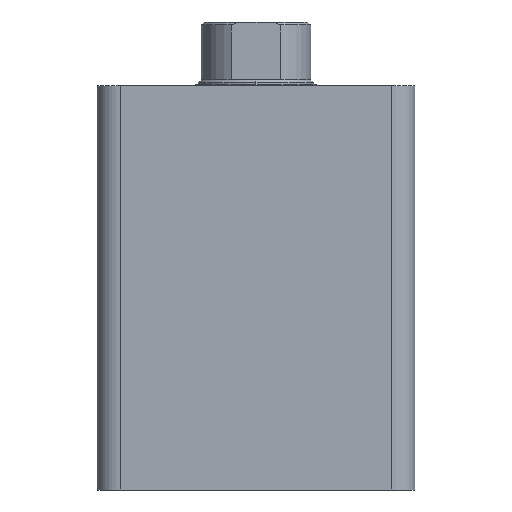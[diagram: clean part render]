
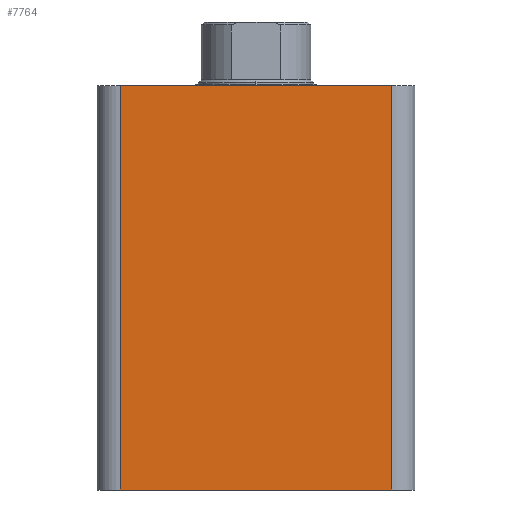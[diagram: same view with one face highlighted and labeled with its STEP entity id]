
A CAD part, front view. The second image highlights one B-rep face of the part: STEP entity #7764.
In plain terms, the highlighted planar face has unit normal (0, -1, 0).
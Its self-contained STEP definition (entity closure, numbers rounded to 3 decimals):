
#34 = EDGE_CURVE ( 'NONE', #10844, #4892, #4588, .T. ) ;
#507 = CARTESIAN_POINT ( 'NONE',  ( 4., 0., 0. ) ) ;
#1314 = VERTEX_POINT ( 'NONE', #9384 ) ;
#1643 = CARTESIAN_POINT ( 'NONE',  ( 4., 0., 70. ) ) ;
#1702 = ORIENTED_EDGE ( 'NONE', *, *, #11961, .T. ) ;
#2012 = DIRECTION ( 'NONE',  ( 0., 1., 0. ) ) ;
#2539 = LINE ( 'NONE', #11544, #6767 ) ;
#2569 = ORIENTED_EDGE ( 'NONE', *, *, #34, .T. ) ;
#2607 = CARTESIAN_POINT ( 'NONE',  ( 51., 0., 70. ) ) ;
#3071 = DIRECTION ( 'NONE',  ( 0., 0., 1. ) ) ;
#3123 = PLANE ( 'NONE',  #7475 ) ;
#3849 = ORIENTED_EDGE ( 'NONE', *, *, #13255, .F. ) ;
#3867 = VECTOR ( 'NONE', #9567, 1000. ) ;
#4588 = LINE ( 'NONE', #1643, #12620 ) ;
#4892 = VERTEX_POINT ( 'NONE', #507 ) ;
#5757 = DIRECTION ( 'NONE',  ( 0., 0., 1. ) ) ;
#6150 = LINE ( 'NONE', #11774, #3867 ) ;
#6378 = DIRECTION ( 'NONE',  ( 1., 0., 0. ) ) ;
#6767 = VECTOR ( 'NONE', #6378, 1000. ) ;
#7475 = AXIS2_PLACEMENT_3D ( 'NONE', #12455, #2012, #3071 ) ;
#7764 = ADVANCED_FACE ( 'NONE', ( #11122 ), #3123, .F. ) ;
#8008 = DIRECTION ( 'NONE',  ( 0., 0., -1. ) ) ;
#8314 = ORIENTED_EDGE ( 'NONE', *, *, #10613, .T. ) ;
#9318 = CARTESIAN_POINT ( 'NONE',  ( 4., 0., 70. ) ) ;
#9384 = CARTESIAN_POINT ( 'NONE',  ( 51., 0., 0. ) ) ;
#9567 = DIRECTION ( 'NONE',  ( 1., 0., 0. ) ) ;
#9584 = CARTESIAN_POINT ( 'NONE',  ( 51., 0., 70. ) ) ;
#9772 = EDGE_LOOP ( 'NONE', ( #1702, #8314, #3849, #2569 ) ) ;
#10613 = EDGE_CURVE ( 'NONE', #1314, #11319, #11367, .T. ) ;
#10844 = VERTEX_POINT ( 'NONE', #9318 ) ;
#11060 = VECTOR ( 'NONE', #5757, 1000. ) ;
#11122 = FACE_OUTER_BOUND ( 'NONE', #9772, .T. ) ;
#11319 = VERTEX_POINT ( 'NONE', #9584 ) ;
#11367 = LINE ( 'NONE', #2607, #11060 ) ;
#11544 = CARTESIAN_POINT ( 'NONE',  ( 0., 0., 70. ) ) ;
#11774 = CARTESIAN_POINT ( 'NONE',  ( 0., 0., 0. ) ) ;
#11961 = EDGE_CURVE ( 'NONE', #4892, #1314, #6150, .T. ) ;
#12455 = CARTESIAN_POINT ( 'NONE',  ( 0., 0., 70. ) ) ;
#12620 = VECTOR ( 'NONE', #8008, 1000. ) ;
#13255 = EDGE_CURVE ( 'NONE', #10844, #11319, #2539, .T. ) ;
